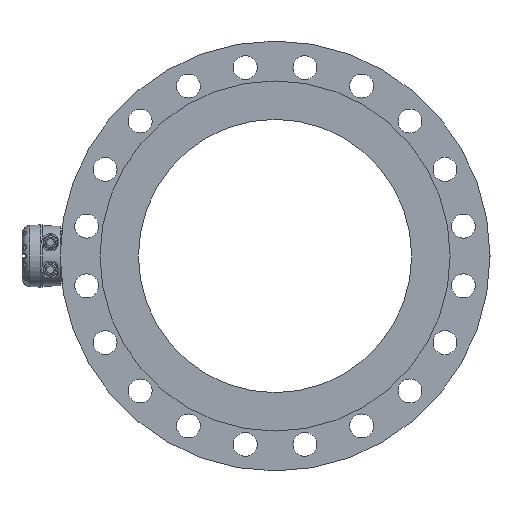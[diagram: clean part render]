
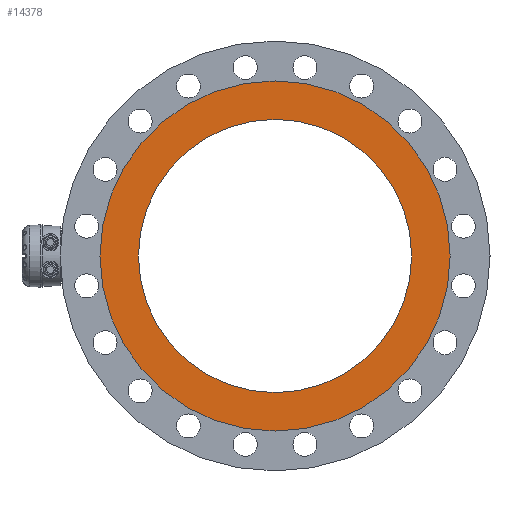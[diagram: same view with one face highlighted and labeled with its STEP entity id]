
A CAD part, left-side view. The second image highlights one B-rep face of the part: STEP entity #14378.
In plain terms, the highlighted planar face has unit normal (-1, 0, 0).
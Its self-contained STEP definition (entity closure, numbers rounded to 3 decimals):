
#3469 = CARTESIAN_POINT ( 'NONE',  ( -394.805, -345.017, -10.543 ) ) ;
#3470 = DIRECTION ( 'NONE',  ( 1., 0., 0. ) ) ;
#3471 = DIRECTION ( 'NONE',  ( 0., 0., -1. ) ) ;
#4394 = CARTESIAN_POINT ( 'NONE',  ( -394.805, -345.017, -10.543 ) ) ;
#4464 = DIRECTION ( 'NONE',  ( -1., 0., 0. ) ) ;
#4465 = DIRECTION ( 'NONE',  ( 0., 0., 1. ) ) ;
#4633 = CIRCLE ( 'NONE', #7095, 240. ) ;
#4804 = CIRCLE ( 'NONE', #7161, 307.5 ) ;
#5381 = FACE_OUTER_BOUND ( 'NONE', #9791, .T. ) ;
#5393 = FACE_BOUND ( 'NONE', #9767, .T. ) ;
#5835 = EDGE_CURVE ( 'NONE', #12714, #12714, #4633, .T. ) ;
#5985 = EDGE_CURVE ( 'NONE', #12790, #12790, #4804, .T. ) ;
#7095 = AXIS2_PLACEMENT_3D ( 'NONE', #3469, #3470, #3471 ) ;
#7161 = AXIS2_PLACEMENT_3D ( 'NONE', #4394, #4464, #4465 ) ;
#7308 = AXIS2_PLACEMENT_3D ( 'NONE', #11621, #11624, #11625 ) ;
#9767 = EDGE_LOOP ( 'NONE', ( #13772 ) ) ;
#9791 = EDGE_LOOP ( 'NONE', ( #13773 ) ) ;
#11601 = PLANE ( 'NONE',  #7308 ) ;
#11621 = CARTESIAN_POINT ( 'NONE',  ( -394.805, -105.017, -10.543 ) ) ;
#11624 = DIRECTION ( 'NONE',  ( -1., 0., 0. ) ) ;
#11625 = DIRECTION ( 'NONE',  ( 0., 0., 1. ) ) ;
#12714 = VERTEX_POINT ( 'NONE', #12715 ) ;
#12715 = CARTESIAN_POINT ( 'NONE',  ( -394.805, -345.017, -250.543 ) ) ;
#12790 = VERTEX_POINT ( 'NONE', #12791 ) ;
#12791 = CARTESIAN_POINT ( 'NONE',  ( -394.805, -345.017, 296.957 ) ) ;
#13772 = ORIENTED_EDGE ( 'NONE', *, *, #5835, .T. ) ;
#13773 = ORIENTED_EDGE ( 'NONE', *, *, #5985, .T. ) ;
#14378 = ADVANCED_FACE ( 'NONE', ( #5393, #5381 ), #11601, .T. ) ;
